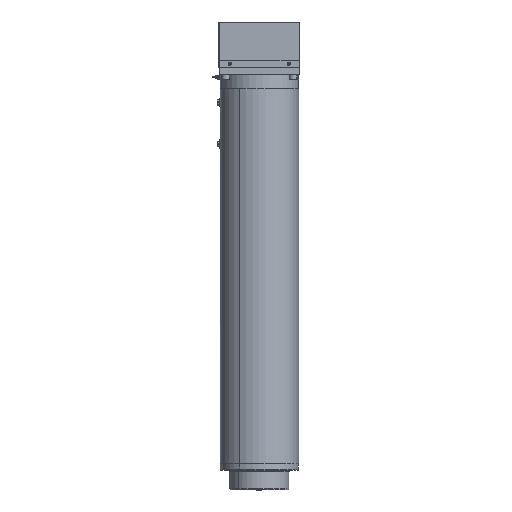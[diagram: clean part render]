
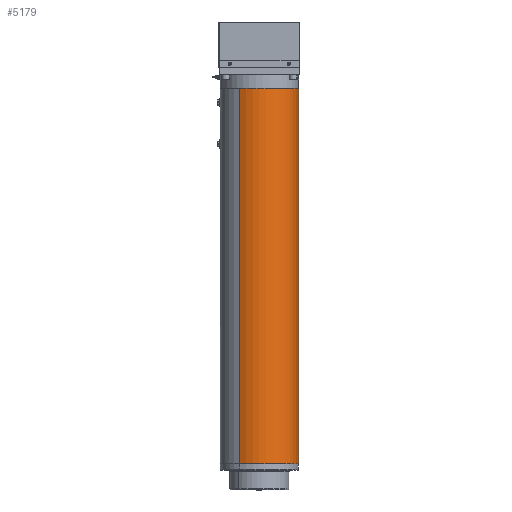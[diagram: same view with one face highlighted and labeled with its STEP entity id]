
A CAD part, top view. The second image highlights one B-rep face of the part: STEP entity #5179.
In plain terms, the highlighted cylindrical face has radius 120 mm (diameter 240 mm), a partial arc.
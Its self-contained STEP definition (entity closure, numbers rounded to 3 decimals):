
#382 = EDGE_CURVE ( 'NONE', #13296, #22459, #34744, .T. ) ;
#1378 = AXIS2_PLACEMENT_3D ( 'NONE', #2319, #28918, #32683 ) ;
#2319 = CARTESIAN_POINT ( 'NONE',  ( -123.25, 1164., -123.25 ) ) ;
#2485 = ORIENTED_EDGE ( 'NONE', *, *, #38346, .F. ) ;
#5179 = ADVANCED_FACE ( 'NONE', ( #14833 ), #27746, .T. ) ;
#6359 = CARTESIAN_POINT ( 'NONE',  ( -63.25, 20., -227.173 ) ) ;
#6762 = CARTESIAN_POINT ( 'NONE',  ( -63.25, 0., -227.173 ) ) ;
#7831 = LINE ( 'NONE', #50754, #33637 ) ;
#8794 = DIRECTION ( 'NONE',  ( -0.5, 0., 0.866 ) ) ;
#9430 = ORIENTED_EDGE ( 'NONE', *, *, #23005, .T. ) ;
#9515 = CARTESIAN_POINT ( 'NONE',  ( -123.25, 20., -123.25 ) ) ;
#13012 = VECTOR ( 'NONE', #56218, 1000. ) ;
#13296 = VERTEX_POINT ( 'NONE', #24478 ) ;
#13327 = DIRECTION ( 'NONE',  ( -0.5, 0., 0.866 ) ) ;
#14833 = FACE_OUTER_BOUND ( 'NONE', #45435, .T. ) ;
#15123 = AXIS2_PLACEMENT_3D ( 'NONE', #9515, #34947, #13327 ) ;
#19000 = CARTESIAN_POINT ( 'NONE',  ( -183.25, 20., -19.327 ) ) ;
#19565 = CIRCLE ( 'NONE', #15123, 120. ) ;
#21289 = VERTEX_POINT ( 'NONE', #19000 ) ;
#22459 = VERTEX_POINT ( 'NONE', #6359 ) ;
#23005 = EDGE_CURVE ( 'NONE', #34660, #21289, #7831, .T. ) ;
#24478 = CARTESIAN_POINT ( 'NONE',  ( -63.25, 1164., -227.173 ) ) ;
#25876 = CARTESIAN_POINT ( 'NONE',  ( -123.25, 0., -123.25 ) ) ;
#27746 = CYLINDRICAL_SURFACE ( 'NONE', #39001, 120. ) ;
#28918 = DIRECTION ( 'NONE',  ( 0., -1., 0. ) ) ;
#32305 = ORIENTED_EDGE ( 'NONE', *, *, #42118, .T. ) ;
#32683 = DIRECTION ( 'NONE',  ( -0.5, 0., 0.866 ) ) ;
#33637 = VECTOR ( 'NONE', #41983, 1000. ) ;
#34660 = VERTEX_POINT ( 'NONE', #35527 ) ;
#34744 = LINE ( 'NONE', #6762, #13012 ) ;
#34947 = DIRECTION ( 'NONE',  ( 0., -1., 0. ) ) ;
#35527 = CARTESIAN_POINT ( 'NONE',  ( -183.25, 1164., -19.327 ) ) ;
#36878 = ORIENTED_EDGE ( 'NONE', *, *, #382, .F. ) ;
#38346 = EDGE_CURVE ( 'NONE', #22459, #21289, #19565, .T. ) ;
#38988 = DIRECTION ( 'NONE',  ( 0., -1., 0. ) ) ;
#39001 = AXIS2_PLACEMENT_3D ( 'NONE', #25876, #38988, #8794 ) ;
#41983 = DIRECTION ( 'NONE',  ( 0., -1., 0. ) ) ;
#42118 = EDGE_CURVE ( 'NONE', #13296, #34660, #50971, .T. ) ;
#45435 = EDGE_LOOP ( 'NONE', ( #36878, #32305, #9430, #2485 ) ) ;
#50754 = CARTESIAN_POINT ( 'NONE',  ( -183.25, 0., -19.327 ) ) ;
#50971 = CIRCLE ( 'NONE', #1378, 120. ) ;
#56218 = DIRECTION ( 'NONE',  ( 0., -1., 0. ) ) ;
